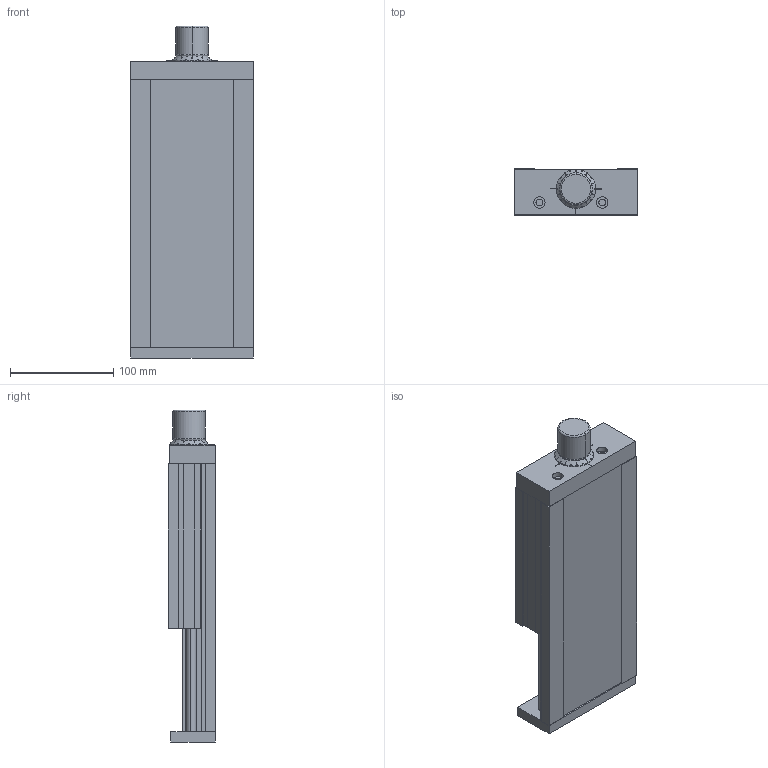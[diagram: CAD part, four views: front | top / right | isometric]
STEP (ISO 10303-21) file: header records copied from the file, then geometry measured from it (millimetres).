
FILE_DESCRIPTION (( 'STEP AP203' ), '1' );
FILE_NAME ('domiLINE 120 Hub 100.STEP', '2004-08-13T08:18:20', ( '' ), ( '' ), 'SwSTEP 2.0', 'SolidWorks 2004073', '' );
FILE_SCHEMA (( 'CONFIG_CONTROL_DESIGN' ));
Length unit declared in the file: millimetre
Products named in the file (3): dL 120 light-+-D013323_ _Hub100; domiLINE 120 Hub 100; Aussenteil neu 120 light-+-D005509_ _Standard
Assembly tree (2 placements, depth 2):
  domiLINE 120 Hub 100
    Aussenteil neu 120 light-+-D005509_ _Standard
    dL 120 light-+-D013323_ _Hub100
Bounding box: 120 x 46 x 322 mm (x, y, z)
Volume: 1147369.6 mm3; surface area: 212737.1 mm2
Topology: 2 solids, 3 shells, 262 faces, 703 edges, 464 vertices
Faces by surface type: plane 156, cylinder 59, cone 23, bspline 20, torus 4
Entity records: 9051 total; most frequent: CARTESIAN_POINT 2336, ORIENTED_EDGE 1406, DIRECTION 1222, EDGE_CURVE 703, VERTEX_POINT 464, VECTOR 450, LINE 450, AXIS2_PLACEMENT_3D 386
